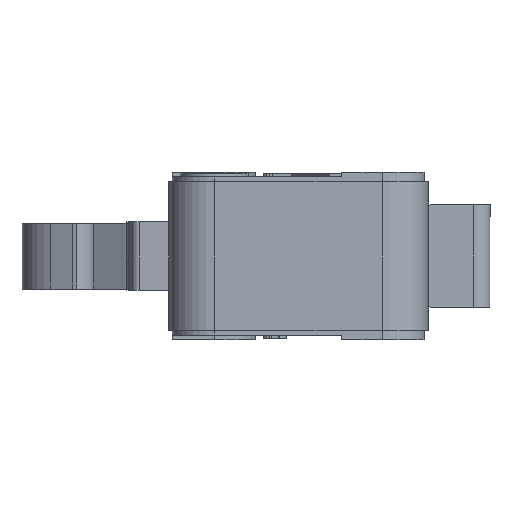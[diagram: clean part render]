
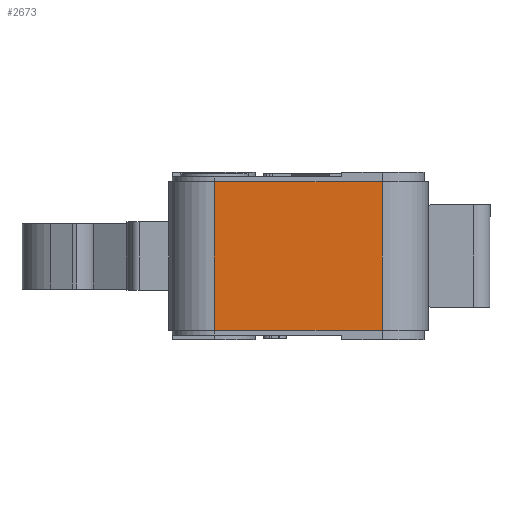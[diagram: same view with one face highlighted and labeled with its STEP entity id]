
A CAD part, left-side view. The second image highlights one B-rep face of the part: STEP entity #2673.
In plain terms, the highlighted planar face has unit normal (-1, 0, 0).
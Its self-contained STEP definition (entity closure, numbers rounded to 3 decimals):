
#2615=CARTESIAN_POINT('',(-13.9,5.15,-4.55));
#2616=VERTEX_POINT('',#2615);
#2617=CARTESIAN_POINT('',(-13.9,5.15,4.55));
#2618=VERTEX_POINT('',#2617);
#2619=CARTESIAN_POINT('',(-13.9,5.15,-4.55));
#2620=DIRECTION('',(0.0,0.0,1.0));
#2621=VECTOR('',#2620,9.1);
#2622=LINE('',#2619,#2621);
#2623=EDGE_CURVE('',#2616,#2618,#2622,.T.);
#2643=CARTESIAN_POINT('',(-13.9,-5.15,-4.55));
#2644=DIRECTION('',(-1.0,0.0,0.0));
#2645=DIRECTION('',(0.0,0.0,1.0));
#2646=AXIS2_PLACEMENT_3D('',#2643,#2644,#2645);
#2647=PLANE('',#2646);
#2648=CARTESIAN_POINT('',(-13.9,-5.15,4.55));
#2649=VERTEX_POINT('',#2648);
#2650=CARTESIAN_POINT('',(-13.9,-5.15,4.55));
#2651=DIRECTION('',(0.0,1.0,0.0));
#2652=VECTOR('',#2651,10.3);
#2653=LINE('',#2650,#2652);
#2654=EDGE_CURVE('',#2649,#2618,#2653,.T.);
#2655=ORIENTED_EDGE('',*,*,#2654,.T.);
#2656=ORIENTED_EDGE('',*,*,#2623,.F.);
#2657=CARTESIAN_POINT('',(-13.9,-5.15,-4.55));
#2658=VERTEX_POINT('',#2657);
#2659=CARTESIAN_POINT('',(-13.9,5.15,-4.55));
#2660=DIRECTION('',(0.0,-1.0,0.0));
#2661=VECTOR('',#2660,10.3);
#2662=LINE('',#2659,#2661);
#2663=EDGE_CURVE('',#2616,#2658,#2662,.T.);
#2664=ORIENTED_EDGE('',*,*,#2663,.T.);
#2665=CARTESIAN_POINT('',(-13.9,-5.15,-4.55));
#2666=DIRECTION('',(0.0,0.0,1.0));
#2667=VECTOR('',#2666,9.1);
#2668=LINE('',#2665,#2667);
#2669=EDGE_CURVE('',#2658,#2649,#2668,.T.);
#2670=ORIENTED_EDGE('',*,*,#2669,.T.);
#2671=EDGE_LOOP('',(#2655,#2656,#2664,#2670));
#2672=FACE_OUTER_BOUND('',#2671,.T.);
#2673=ADVANCED_FACE('',(#2672),#2647,.T.);
